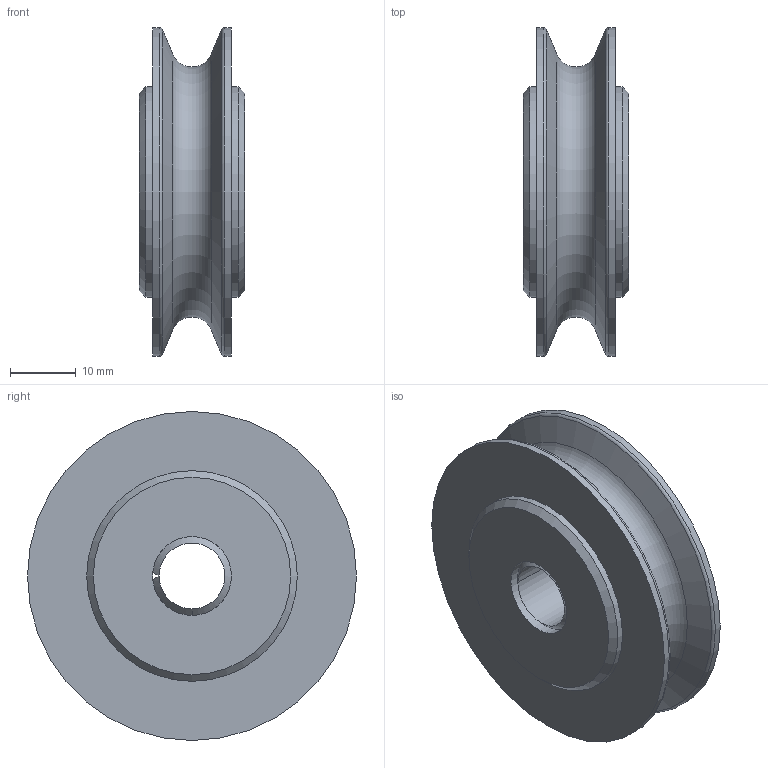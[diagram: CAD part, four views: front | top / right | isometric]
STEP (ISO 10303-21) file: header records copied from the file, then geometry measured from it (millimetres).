
FILE_DESCRIPTION(/* description */ ('Seilrolle ø50 Buchse komplett'),/* implementation_level */ '2;1');
FILE_NAME(/* name */ 'Z:\Workspace\03 Seilrollen\1.401 Seilrollen Gleitlager\1.401.01 Seilrolle ø 50 Buchse\1.401.01 Seilrolle ø50 Buchse komplett.stp',/* time_stamp */ '2021-10-01T14:03:39+02:00',/* author */ ('cad-user'),/* organization */ (''),/* preprocessor_version */ 'ST-DEVELOPER v18',/* originating_system */ 'Autodesk Inventor 2020',/* authorisation */ '');
FILE_SCHEMA (('AUTOMOTIVE_DESIGN { 1 0 10303 214 3 1 1 }'));
Length unit declared in the file: millimetre
Products named in the file (3): 1.401.01 Seilrolle ø50 Buchse komplett; 1.401.01 Seilrolle ø50 Buchse; Lagerbuchse 1015-DU
Assembly tree (2 placements, depth 2):
  1.401.01 Seilrolle ø50 Buchse komplett
    1.401.01 Seilrolle ø50 Buchse
    Lagerbuchse 1015-DU
Bounding box: 16 x 50 x 50 mm (x, y, z)
Volume: 19835.8 mm3; surface area: 8258.7 mm2
Topology: 2 solids, 2 shells, 24 faces, 66 edges, 46 vertices
Faces by surface type: cone 8, cylinder 7, plane 6, torus 3
Full cylindrical faces by diameter (mm): 10 x1, 12 x1, 32 x2, 50 x2
Entity records: 923 total; most frequent: DIRECTION 167, CARTESIAN_POINT 149, ORIENTED_EDGE 132, AXIS2_PLACEMENT_3D 76, EDGE_CURVE 66, CIRCLE 47, VERTEX_POINT 46, EDGE_LOOP 28
